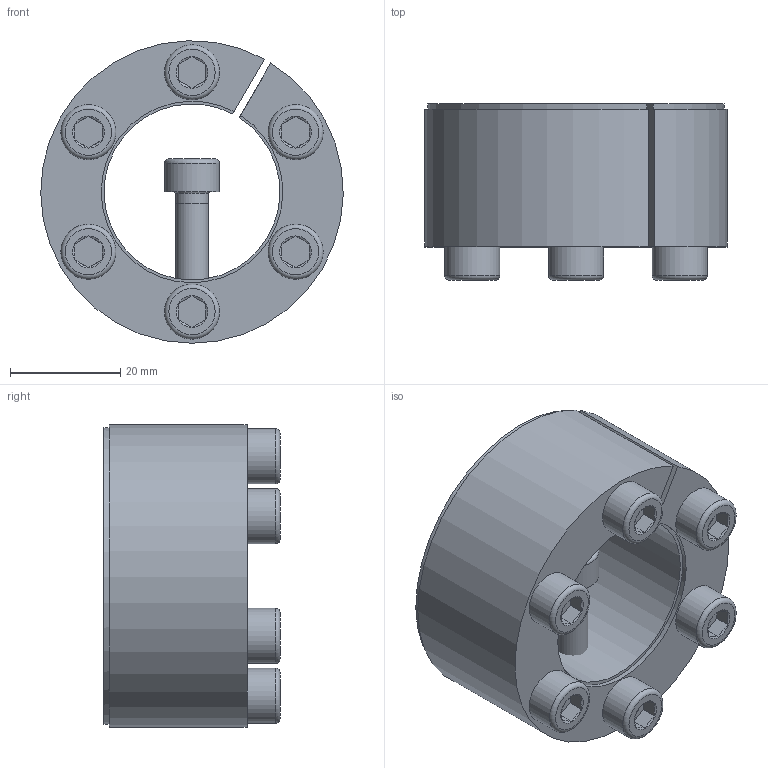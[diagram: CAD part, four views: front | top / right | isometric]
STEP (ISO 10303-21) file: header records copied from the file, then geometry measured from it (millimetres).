
FILE_DESCRIPTION( ( 'Unknown' ), '1' );
FILE_NAME( 'C:/Dokumente und Einstellungen/Sven/Desktop/homepage/cad - homepage/KBS61/KBS 61 - 32 x 55.stp', 'Unknown', ( 'Unknown' ), ( 'Unknown' ), 'XStep 1.0', 'Unknown', ' ' );
FILE_SCHEMA( ( 'automotive_design' ) );
Length unit declared in the file: millimetre
Products named in the file (3): Assem1; KBS 61 - 32 x 55; ISO EN DIN 4762 M6x25
Bounding box: 55 x 32 x 54.99 mm (x, y, z)
Volume: 79519.5 mm3; surface area: 32817.4 mm2
Topology: 9 solids, 9 shells, 207 faces, 397 edges, 236 vertices
Faces by surface type: plane 96, cone 53, cylinder 44, torus 14
Full cylindrical faces by diameter (mm): 5 x7, 6 x26, 10 x7
Entity records: 1282 total; most frequent: CARTESIAN_POINT 229, DIRECTION 196, ORIENTED_EDGE 142, AXIS2_PLACEMENT_3D 86, EDGE_CURVE 71, EDGE_LOOP 70, FACE_OUTER_BOUND 53, VERTEX_POINT 51
